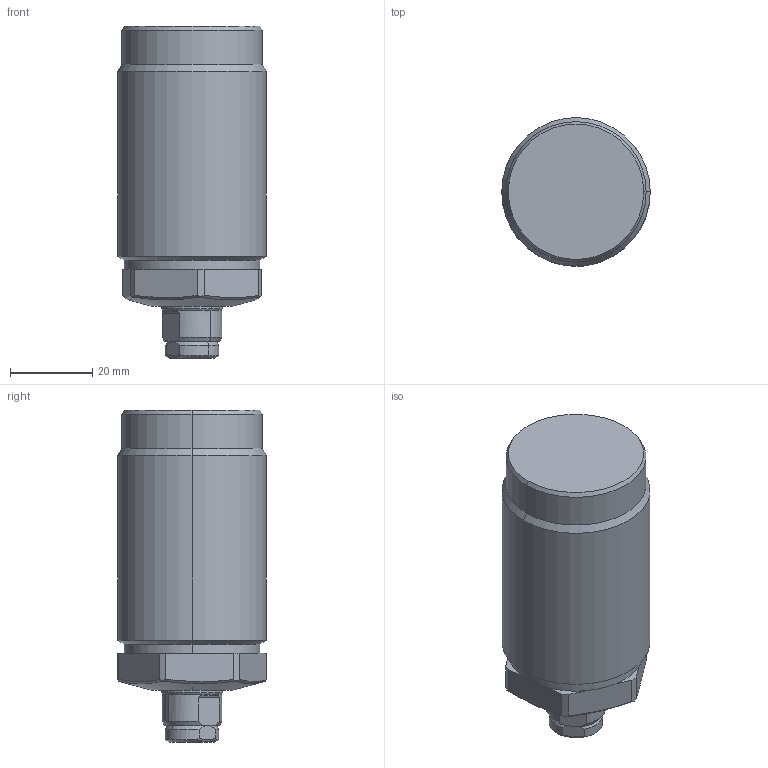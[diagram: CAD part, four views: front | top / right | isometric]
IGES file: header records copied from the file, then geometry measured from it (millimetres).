
Start section: SolidWorks IGES file using analytic representation for surfaces
Global section: file name: F:\CLASP THREADED WORK SUPPORT AND FLANGE IGS MODEL\CLASP THREADED WS IGS\TW09-M260\TW09-M362.IGS; native system: SolidWorks 2019; preprocessor: SolidWorks 2019; author: ADMIN; date: 200806.100102; units: millimetre
Bounding box: 36 x 36 x 80.5 mm (x, y, z)
Volume: 63720 mm3; surface area: 14766.8 mm2
Topology: 3 solids, 3 shells, 103 faces, 237 edges, 142 vertices
Faces by surface type: revolution 60, plane 35, bspline 8
